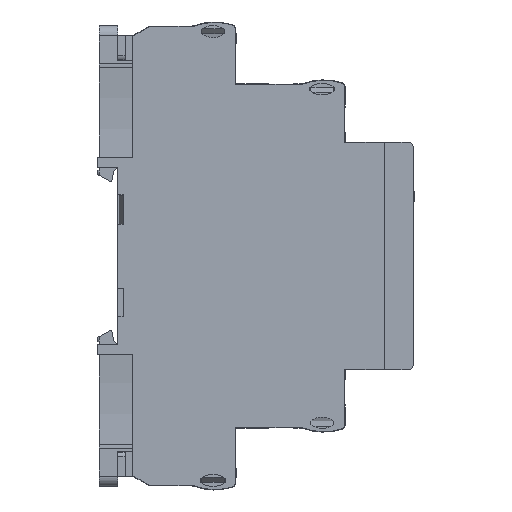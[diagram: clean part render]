
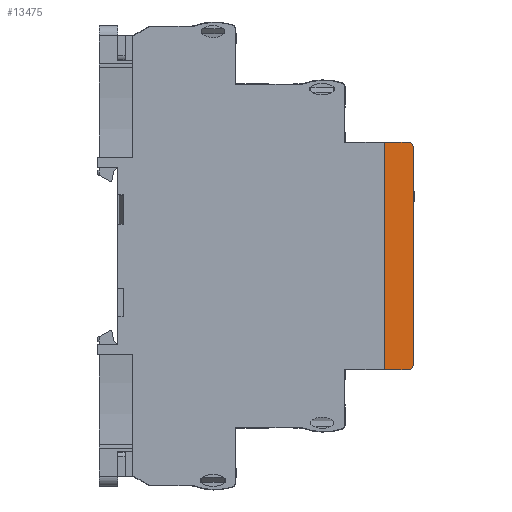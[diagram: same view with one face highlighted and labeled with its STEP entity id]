
A CAD part, front view. The second image highlights one B-rep face of the part: STEP entity #13475.
In plain terms, the highlighted planar face has unit normal (0, -1, 0) as drawn and (-1, 0, 0) by its records, which use the part's own axes.
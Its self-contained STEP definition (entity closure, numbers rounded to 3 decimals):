
#13475=ADVANCED_FACE('',(#107199),#107201,.T.);
#107199=FACE_BOUND('',#107200,.T.);
#107200=EDGE_LOOP('',(#178497,#178498,#178499,#178500,#178501,#178502));
#107201=PLANE('',#107202);
#107202=AXIS2_PLACEMENT_3D('',#107203,#107204,#107205);
#107203=CARTESIAN_POINT('',(-11.25,-22.6,1.5));
#107204=DIRECTION('',(-1.,0.,0.));
#107205=DIRECTION('',(0.,0.,1.));
#178497=ORIENTED_EDGE('',*,*,#245883,.F.);
#178498=ORIENTED_EDGE('',*,*,#245868,.F.);
#178499=ORIENTED_EDGE('',*,*,#245891,.F.);
#178500=ORIENTED_EDGE('',*,*,#245892,.T.);
#178501=ORIENTED_EDGE('',*,*,#245893,.T.);
#178502=ORIENTED_EDGE('',*,*,#245894,.T.);
#245868=EDGE_CURVE('',#278228,#278223,#278230,.F.);
#245883=EDGE_CURVE('',#278223,#278259,#278260,.F.);
#245891=EDGE_CURVE('',#278271,#278228,#278273,.F.);
#245892=EDGE_CURVE('',#278271,#278274,#278275,.F.);
#245893=EDGE_CURVE('',#278274,#278276,#278277,.T.);
#245894=EDGE_CURVE('',#278276,#278259,#278278,.T.);
#278223=VERTEX_POINT('',#335470);
#278228=VERTEX_POINT('',#335479);
#278230=LINE('',#335483,#335484);
#278259=VERTEX_POINT('',#335544);
#278260=CIRCLE('',#335545,1.);
#278271=VERTEX_POINT('',#335573);
#278273=CIRCLE('',#335577,1.);
#278274=VERTEX_POINT('',#335581);
#278275=LINE('',#335582,#335583);
#278276=VERTEX_POINT('',#335585);
#278277=LINE('',#335586,#335587);
#278278=LINE('',#335589,#335590);
#335470=CARTESIAN_POINT('',(-11.25,21.6,0.));
#335479=CARTESIAN_POINT('',(-11.25,-21.6,0.));
#335483=CARTESIAN_POINT('',(-11.25,21.6,0.));
#335484=VECTOR('',#335485,1.);
#335485=DIRECTION('',(0.,-1.,0.));
#335544=CARTESIAN_POINT('',(-11.25,22.6,1.));
#335545=AXIS2_PLACEMENT_3D('',#335546,#335547,#335548);
#335546=CARTESIAN_POINT('',(-11.25,21.6,1.));
#335547=DIRECTION('',(-1.,0.,0.));
#335548=DIRECTION('',(0.,1.,0.));
#335573=CARTESIAN_POINT('',(-11.25,-22.6,1.));
#335577=AXIS2_PLACEMENT_3D('',#335578,#335579,#335580);
#335578=CARTESIAN_POINT('',(-11.25,-21.6,1.));
#335579=DIRECTION('',(-1.,0.,0.));
#335580=DIRECTION('',(0.,0.,-1.));
#335581=CARTESIAN_POINT('',(-11.25,-22.6,5.75));
#335582=CARTESIAN_POINT('',(-11.25,-22.6,5.75));
#335583=VECTOR('',#335584,1.);
#335584=DIRECTION('',(0.,0.,-1.));
#335585=CARTESIAN_POINT('',(-11.25,22.6,5.75));
#335586=CARTESIAN_POINT('',(-11.25,-22.6,5.75));
#335587=VECTOR('',#335588,1.);
#335588=DIRECTION('',(0.,1.,0.));
#335589=CARTESIAN_POINT('',(-11.25,22.6,5.75));
#335590=VECTOR('',#335591,1.);
#335591=DIRECTION('',(0.,0.,-1.));
